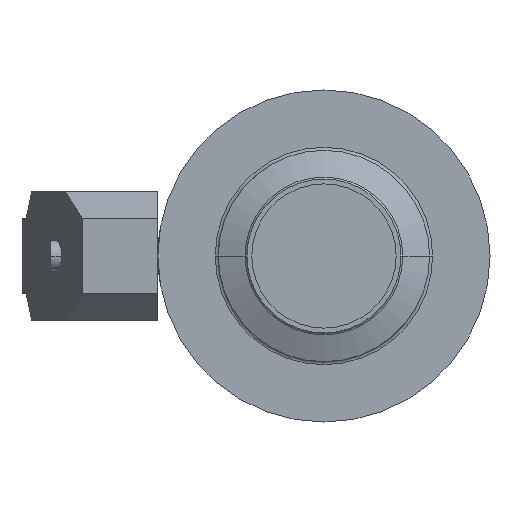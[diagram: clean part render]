
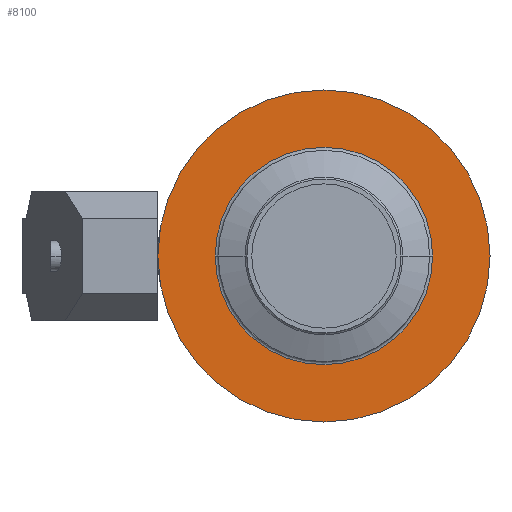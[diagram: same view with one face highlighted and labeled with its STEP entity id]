
A CAD part, left-side view. The second image highlights one B-rep face of the part: STEP entity #8100.
In plain terms, the highlighted planar face has unit normal (-1, 0, 0) as drawn and (1, 0, 0) by its records, which use the part's own axes.
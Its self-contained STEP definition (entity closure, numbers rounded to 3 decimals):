
#7620=CARTESIAN_POINT('',(-269.804,-64.858,
0.));
#7630=VERTEX_POINT('',#7620);
#7710=CARTESIAN_POINT('',(-269.804,45.142,0.));
#7720=VERTEX_POINT('',#7710);
#7750=CARTESIAN_POINT('',(-269.804,-9.858,0.));
#7760=DIRECTION('',(-1.,0.,0.));
#7770=DIRECTION('',(0.,1.,0.));
#7780=AXIS2_PLACEMENT_3D('',#7750,#7760,#7770);
#7790=CIRCLE('',#7780,55.);
#7800=EDGE_CURVE('',#7630,#7720,#7790,.T.);
#7850=CARTESIAN_POINT('',(-269.804,42.792,0.));
#7860=DIRECTION('',(-1.,0.,0.));
#7870=DIRECTION('',(0.,-1.,0.));
#7880=AXIS2_PLACEMENT_3D('',#7850,#7860,#7870);
#7890=PLANE('',#7880);
#7900=CARTESIAN_POINT('',(-269.804,-9.858,0.));
#7910=DIRECTION('',(-1.,0.,0.));
#7920=DIRECTION('',(0.,1.,0.));
#7930=AXIS2_PLACEMENT_3D('',#7900,#7910,#7920);
#7940=CIRCLE('',#7930,36.);
#7950=CARTESIAN_POINT('',(-269.804,26.142,0.));
#7960=VERTEX_POINT('',#7950);
#7970=CARTESIAN_POINT('',(-269.804,-45.858,0.));
#7980=VERTEX_POINT('',#7970);
#7990=EDGE_CURVE('',#7960,#7980,#7940,.T.);
#8000=ORIENTED_EDGE('',*,*,#7990,.T.);
#8010=EDGE_CURVE('',#7980,#7960,#7940,.T.);
#8020=ORIENTED_EDGE('',*,*,#8010,.T.);
#8030=EDGE_LOOP('',(#8020,#8000));
#8040=FACE_BOUND('',#8030,.T.);
#8050=EDGE_CURVE('',#7720,#7630,#7790,.T.);
#8060=ORIENTED_EDGE('',*,*,#8050,.F.);
#8070=ORIENTED_EDGE('',*,*,#7800,.F.);
#8080=EDGE_LOOP('',(#8070,#8060));
#8090=FACE_OUTER_BOUND('',#8080,.T.);
#8100=ADVANCED_FACE('',(#8040,#8090),#7890,.F.);
